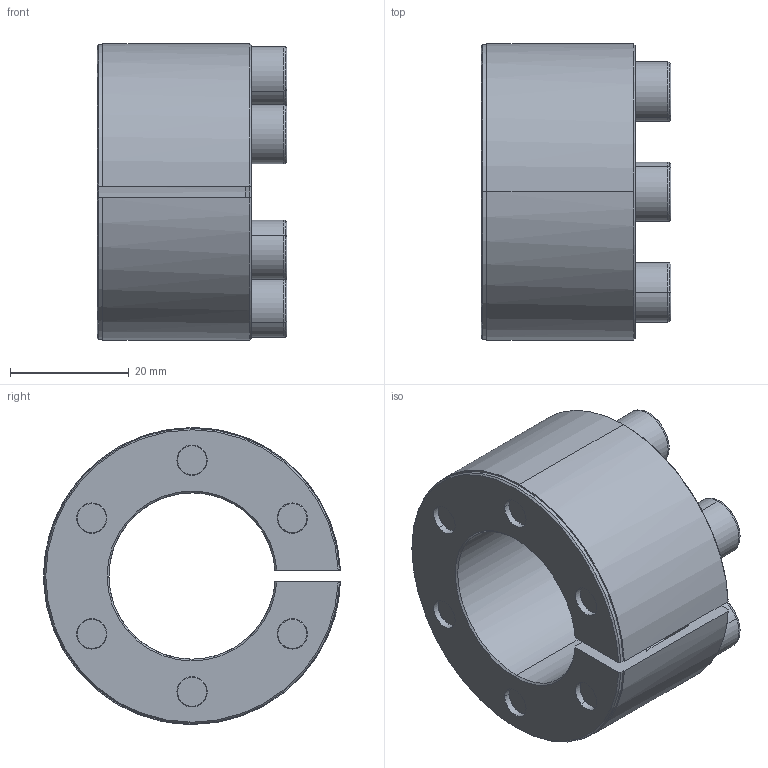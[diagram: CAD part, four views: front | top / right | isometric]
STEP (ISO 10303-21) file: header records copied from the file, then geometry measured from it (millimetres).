
FILE_DESCRIPTION (( 'STEP AP214' ), '1' );
FILE_NAME ('SAPL-E-28-50.STEP', '2024-07-12T02:17:32', ( '决扁浅何厘' ), ( '' ), 'SwSTEP 2.0', 'SolidWorks 2024', '' );
FILE_SCHEMA (( 'AUTOMOTIVE_DESIGN' ));
Length unit declared in the file: millimetre
Products named in the file (1): SAPL-E-28-50
Bounding box: 31.99 x 49.98 x 50 mm (x, y, z)
Volume: 28333 mm3; surface area: 18104.2 mm2
Topology: 1 solids, 1 shells, 257 faces, 619 edges, 370 vertices
Faces by surface type: plane 92, cylinder 66, cone 51, torus 48
Entity records: 7585 total; most frequent: CARTESIAN_POINT 1419, DIRECTION 1405, ORIENTED_EDGE 1214, EDGE_CURVE 607, AXIS2_PLACEMENT_3D 573, VERTEX_POINT 370, CIRCLE 315, EDGE_LOOP 295
